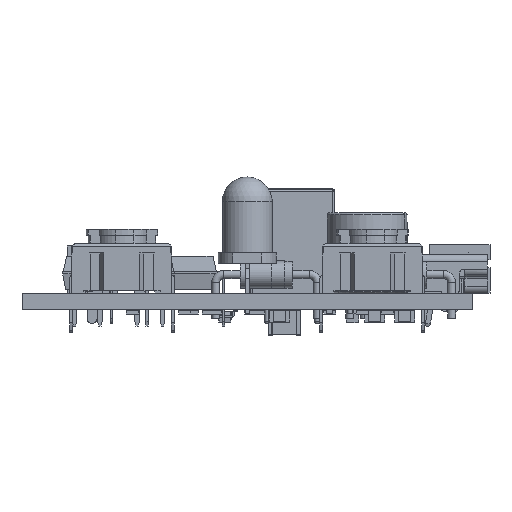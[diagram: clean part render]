
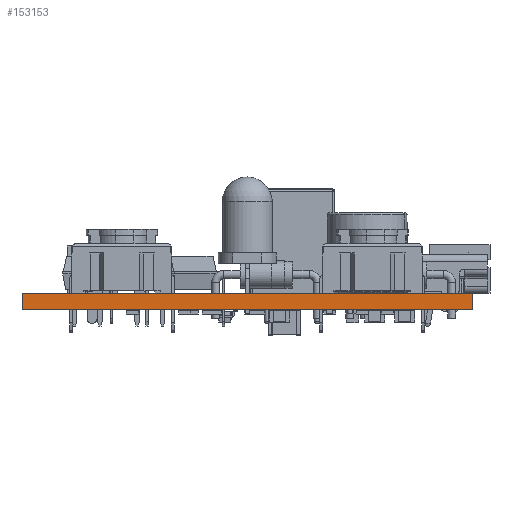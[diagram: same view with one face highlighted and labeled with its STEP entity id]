
A CAD part, front view. The second image highlights one B-rep face of the part: STEP entity #153153.
In plain terms, the highlighted planar face has unit normal (0, -1, 0).
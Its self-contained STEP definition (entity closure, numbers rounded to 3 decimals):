
#153153 = ADVANCED_FACE('',(#153154),#153168,.F.);
#153154 = FACE_BOUND('',#153155,.F.);
#153155 = EDGE_LOOP('',(#153156,#153191,#153219,#153247));
#153156 = ORIENTED_EDGE('',*,*,#153157,.T.);
#153157 = EDGE_CURVE('',#153158,#153160,#153162,.T.);
#153158 = VERTEX_POINT('',#153159);
#153159 = CARTESIAN_POINT('',(0.,0.,0.));
#153160 = VERTEX_POINT('',#153161);
#153161 = CARTESIAN_POINT('',(0.,0.,1.6));
#153162 = SURFACE_CURVE('',#153163,(#153167,#153179),.PCURVE_S1.);
#153163 = LINE('',#153164,#153165);
#153164 = CARTESIAN_POINT('',(0.,0.,0.));
#153165 = VECTOR('',#153166,1.);
#153166 = DIRECTION('',(0.,0.,1.));
#153167 = PCURVE('',#153168,#153173);
#153168 = PLANE('',#153169);
#153169 = AXIS2_PLACEMENT_3D('',#153170,#153171,#153172);
#153170 = CARTESIAN_POINT('',(0.,0.,0.));
#153171 = DIRECTION('',(0.,1.,0.));
#153172 = DIRECTION('',(1.,0.,0.));
#153173 = DEFINITIONAL_REPRESENTATION('',(#153174),#153178);
#153174 = LINE('',#153175,#153176);
#153175 = CARTESIAN_POINT('',(0.,0.));
#153176 = VECTOR('',#153177,1.);
#153177 = DIRECTION('',(0.,-1.));
#153178 = ( GEOMETRIC_REPRESENTATION_CONTEXT(2) 
PARAMETRIC_REPRESENTATION_CONTEXT() REPRESENTATION_CONTEXT('2D SPACE',''
  ) );
#153179 = PCURVE('',#153180,#153185);
#153180 = PLANE('',#153181);
#153181 = AXIS2_PLACEMENT_3D('',#153182,#153183,#153184);
#153182 = CARTESIAN_POINT('',(0.,82.,0.));
#153183 = DIRECTION('',(1.,0.,0.));
#153184 = DIRECTION('',(0.,-1.,0.));
#153185 = DEFINITIONAL_REPRESENTATION('',(#153186),#153190);
#153186 = LINE('',#153187,#153188);
#153187 = CARTESIAN_POINT('',(82.,0.));
#153188 = VECTOR('',#153189,1.);
#153189 = DIRECTION('',(0.,-1.));
#153190 = ( GEOMETRIC_REPRESENTATION_CONTEXT(2) 
PARAMETRIC_REPRESENTATION_CONTEXT() REPRESENTATION_CONTEXT('2D SPACE',''
  ) );
#153191 = ORIENTED_EDGE('',*,*,#153192,.T.);
#153192 = EDGE_CURVE('',#153160,#153193,#153195,.T.);
#153193 = VERTEX_POINT('',#153194);
#153194 = CARTESIAN_POINT('',(45.,0.,1.6));
#153195 = SURFACE_CURVE('',#153196,(#153200,#153207),.PCURVE_S1.);
#153196 = LINE('',#153197,#153198);
#153197 = CARTESIAN_POINT('',(0.,0.,1.6));
#153198 = VECTOR('',#153199,1.);
#153199 = DIRECTION('',(1.,0.,0.));
#153200 = PCURVE('',#153168,#153201);
#153201 = DEFINITIONAL_REPRESENTATION('',(#153202),#153206);
#153202 = LINE('',#153203,#153204);
#153203 = CARTESIAN_POINT('',(0.,-1.6));
#153204 = VECTOR('',#153205,1.);
#153205 = DIRECTION('',(1.,0.));
#153206 = ( GEOMETRIC_REPRESENTATION_CONTEXT(2) 
PARAMETRIC_REPRESENTATION_CONTEXT() REPRESENTATION_CONTEXT('2D SPACE',''
  ) );
#153207 = PCURVE('',#153208,#153213);
#153208 = PLANE('',#153209);
#153209 = AXIS2_PLACEMENT_3D('',#153210,#153211,#153212);
#153210 = CARTESIAN_POINT('',(22.5,41.,1.6));
#153211 = DIRECTION('',(0.,0.,1.));
#153212 = DIRECTION('',(1.,0.,0.));
#153213 = DEFINITIONAL_REPRESENTATION('',(#153214),#153218);
#153214 = LINE('',#153215,#153216);
#153215 = CARTESIAN_POINT('',(-22.5,-41.));
#153216 = VECTOR('',#153217,1.);
#153217 = DIRECTION('',(1.,0.));
#153218 = ( GEOMETRIC_REPRESENTATION_CONTEXT(2) 
PARAMETRIC_REPRESENTATION_CONTEXT() REPRESENTATION_CONTEXT('2D SPACE',''
  ) );
#153219 = ORIENTED_EDGE('',*,*,#153220,.F.);
#153220 = EDGE_CURVE('',#153221,#153193,#153223,.T.);
#153221 = VERTEX_POINT('',#153222);
#153222 = CARTESIAN_POINT('',(45.,0.,0.));
#153223 = SURFACE_CURVE('',#153224,(#153228,#153235),.PCURVE_S1.);
#153224 = LINE('',#153225,#153226);
#153225 = CARTESIAN_POINT('',(45.,0.,0.));
#153226 = VECTOR('',#153227,1.);
#153227 = DIRECTION('',(0.,0.,1.));
#153228 = PCURVE('',#153168,#153229);
#153229 = DEFINITIONAL_REPRESENTATION('',(#153230),#153234);
#153230 = LINE('',#153231,#153232);
#153231 = CARTESIAN_POINT('',(45.,0.));
#153232 = VECTOR('',#153233,1.);
#153233 = DIRECTION('',(0.,-1.));
#153234 = ( GEOMETRIC_REPRESENTATION_CONTEXT(2) 
PARAMETRIC_REPRESENTATION_CONTEXT() REPRESENTATION_CONTEXT('2D SPACE',''
  ) );
#153235 = PCURVE('',#153236,#153241);
#153236 = PLANE('',#153237);
#153237 = AXIS2_PLACEMENT_3D('',#153238,#153239,#153240);
#153238 = CARTESIAN_POINT('',(45.,0.,0.));
#153239 = DIRECTION('',(-1.,0.,0.));
#153240 = DIRECTION('',(0.,1.,0.));
#153241 = DEFINITIONAL_REPRESENTATION('',(#153242),#153246);
#153242 = LINE('',#153243,#153244);
#153243 = CARTESIAN_POINT('',(0.,0.));
#153244 = VECTOR('',#153245,1.);
#153245 = DIRECTION('',(0.,-1.));
#153246 = ( GEOMETRIC_REPRESENTATION_CONTEXT(2) 
PARAMETRIC_REPRESENTATION_CONTEXT() REPRESENTATION_CONTEXT('2D SPACE',''
  ) );
#153247 = ORIENTED_EDGE('',*,*,#153248,.F.);
#153248 = EDGE_CURVE('',#153158,#153221,#153249,.T.);
#153249 = SURFACE_CURVE('',#153250,(#153254,#153261),.PCURVE_S1.);
#153250 = LINE('',#153251,#153252);
#153251 = CARTESIAN_POINT('',(0.,0.,0.));
#153252 = VECTOR('',#153253,1.);
#153253 = DIRECTION('',(1.,0.,0.));
#153254 = PCURVE('',#153168,#153255);
#153255 = DEFINITIONAL_REPRESENTATION('',(#153256),#153260);
#153256 = LINE('',#153257,#153258);
#153257 = CARTESIAN_POINT('',(0.,0.));
#153258 = VECTOR('',#153259,1.);
#153259 = DIRECTION('',(1.,0.));
#153260 = ( GEOMETRIC_REPRESENTATION_CONTEXT(2) 
PARAMETRIC_REPRESENTATION_CONTEXT() REPRESENTATION_CONTEXT('2D SPACE',''
  ) );
#153261 = PCURVE('',#153262,#153267);
#153262 = PLANE('',#153263);
#153263 = AXIS2_PLACEMENT_3D('',#153264,#153265,#153266);
#153264 = CARTESIAN_POINT('',(22.5,41.,0.));
#153265 = DIRECTION('',(0.,0.,1.));
#153266 = DIRECTION('',(1.,0.,0.));
#153267 = DEFINITIONAL_REPRESENTATION('',(#153268),#153272);
#153268 = LINE('',#153269,#153270);
#153269 = CARTESIAN_POINT('',(-22.5,-41.));
#153270 = VECTOR('',#153271,1.);
#153271 = DIRECTION('',(1.,0.));
#153272 = ( GEOMETRIC_REPRESENTATION_CONTEXT(2) 
PARAMETRIC_REPRESENTATION_CONTEXT() REPRESENTATION_CONTEXT('2D SPACE',''
  ) );
